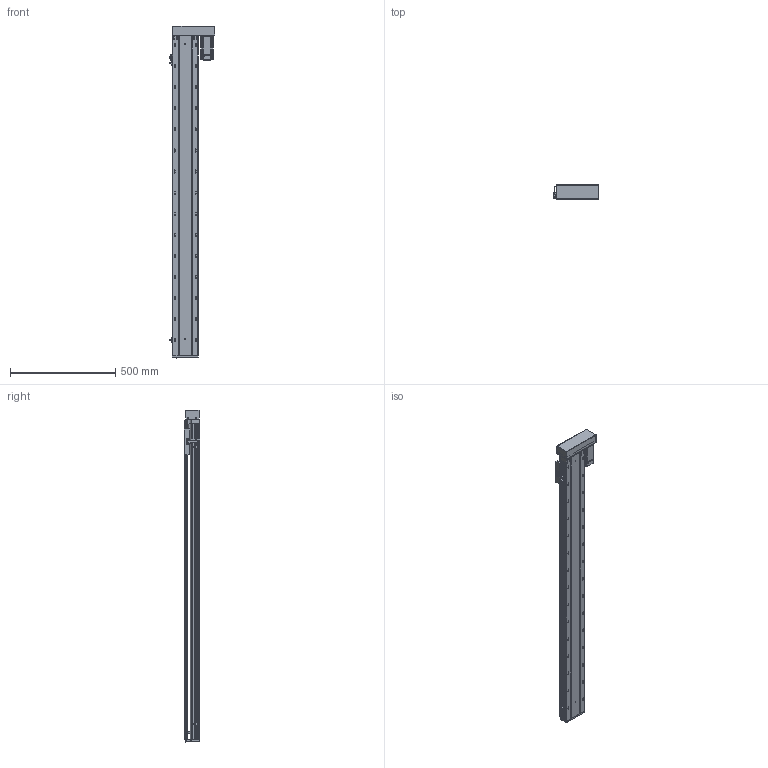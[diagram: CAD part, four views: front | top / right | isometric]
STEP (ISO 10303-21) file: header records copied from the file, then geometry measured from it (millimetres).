
FILE_DESCRIPTION (( 'STEP AP203' ), '1' );
FILE_NAME ('RY120-L2020-1000-RK.SLDASM_1300.step', '2021-03-12T07:30:18', ( '盈信电脑' ), ( '东莞市道滘镇水果街19号' ), 'SwSTEP 2.0', 'SolidWorks 2012', '' );
FILE_SCHEMA (( 'CONFIG_CONTROL_DESIGN' ));
Length unit declared in the file: millimetre
Products named in the file (18): RY120-L2020-1000-RK.SLDASM_1300; RY120蛌殏萇儂欶; RY80肮祭湍覃踡啣; 同步轮3M34齿宽15单边凸台; RY120-400W萇儂傷-酘衵殏_450; 15; RY80肮祭湍芢雄輸; 侂狟400W侜督萇儂; RY120酘殏萇儂假蚾啣; 滅袉蝶18-24; RY120外置感应片(140共用）; RY120转拆电端丝杆支撑座(20丝杆，7002轴承); RY120臏賑輸(20蹟譫); 滅袉蝶18-10; 覜茼ん672; RY120綴裔啣; RY120-1000-RK蛌殏倰第菁釱_1300; RY120-1000-RK蛌殏倰第奻裔啣_1300
Assembly tree (21 placements, depth 4):
  RY120-L2020-1000-RK.SLDASM_1300
    RY120-1000-RK蛌殏倰第菁釱_1300
    RY120-1000-RK蛌殏倰第奻裔啣_1300
    RY120臏賑輸(20蹟譫)
    RY120綴裔啣
    覜茼ん672  x3
    滅袉蝶18-10
    滅袉蝶18-24  x2
    RY120外置感应片(140共用）
    RY120转拆电端丝杆支撑座(20丝杆，7002轴承)
    RY120-400W萇儂傷-酘衵殏_450
      RY120酘殏萇儂假蚾啣
      侂狟400W侜督萇儂
        15
      RY80肮祭湍芢雄輸  x2
      同步轮3M34齿宽15单边凸台
      RY80肮祭湍覃踡啣
      RY120蛌殏萇儂欶
Bounding box: 214.2 x 73 x 1575 mm (x, y, z)
Volume: 4241846 mm3; surface area: 1603721.2 mm2
Topology: 20 solids, 20 shells, 3352 faces, 9227 edges, 5873 vertices
Faces by surface type: cylinder 1519, plane 1437, cone 291, bspline 105
Entity records: 112207 total; most frequent: CARTESIAN_POINT 31226, ORIENTED_EDGE 16914, DIRECTION 16028, EDGE_CURVE 8457, AXIS2_PLACEMENT_3D 5676, VERTEX_POINT 5497, LINE 4676, VECTOR 4676
